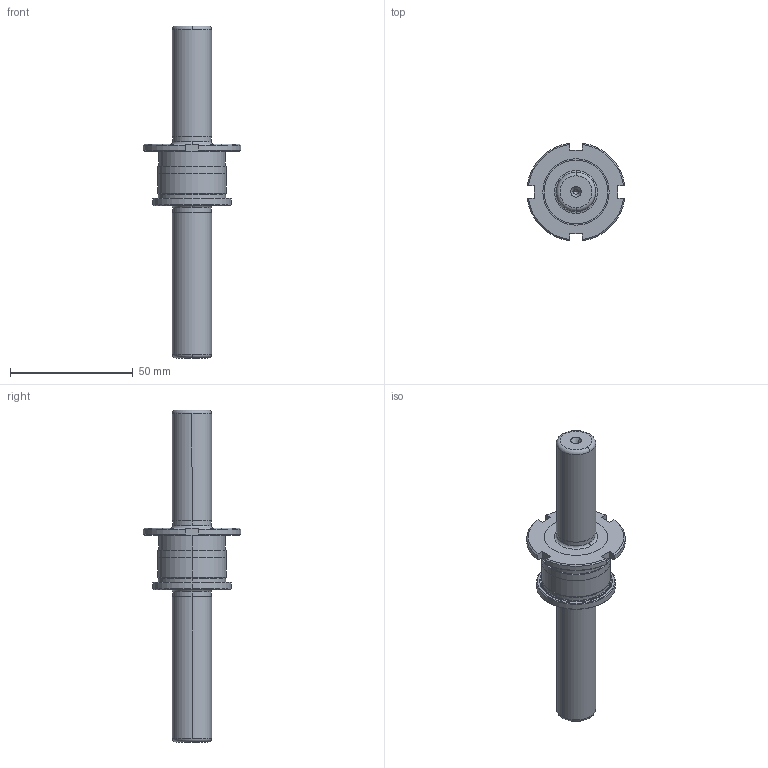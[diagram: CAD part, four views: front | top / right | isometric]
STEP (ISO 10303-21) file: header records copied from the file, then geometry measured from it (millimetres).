
FILE_DESCRIPTION((''),'2;1');
FILE_NAME('CMF_016_135.stp','2008-11-04T10:59:14',(''),(''),'Mechanical Desktop 2009','Mechanical Desktop 2009',', , ');
FILE_SCHEMA(('CONFIG_CONTROL_DESIGN'));
Length unit declared in the file: millimetre
Products named in the file (2): Product; blmdl1
Assembly tree (1 placements, depth 2):
  Product
    blmdl1
Bounding box: 39.69 x 39.69 x 135 mm (x, y, z)
Volume: 39217.3 mm3; surface area: 11453.9 mm2
Topology: 2 solids, 2 shells, 92 faces, 223 edges, 141 vertices
Faces by surface type: cylinder 30, cone 28, plane 24, bspline 6, torus 4
Entity records: 3035 total; most frequent: CARTESIAN_POINT 750, DIRECTION 496, ORIENTED_EDGE 438, EDGE_CURVE 219, AXIS2_PLACEMENT_3D 205, VERTEX_POINT 141, CIRCLE 117, EDGE_LOOP 104
